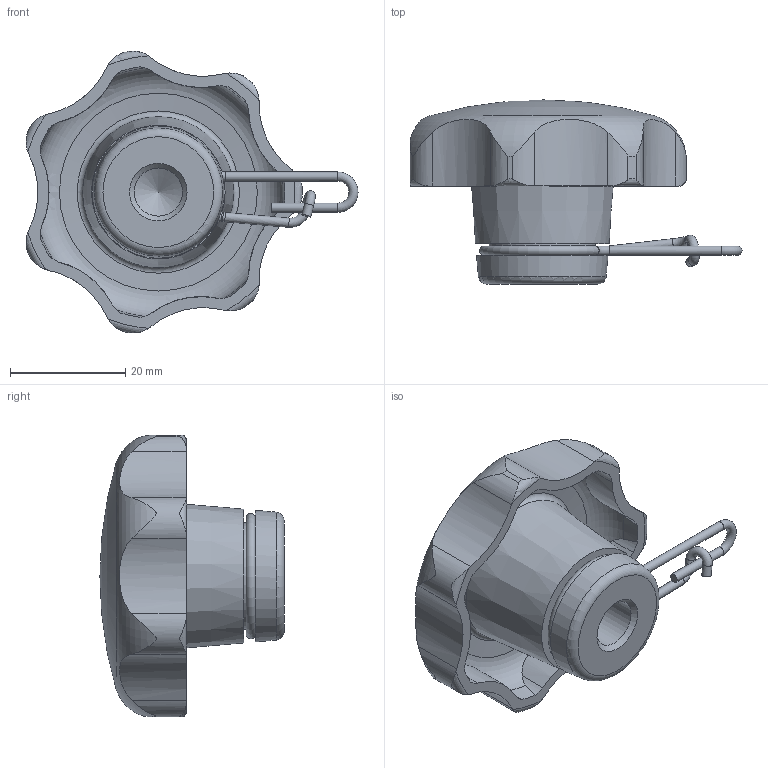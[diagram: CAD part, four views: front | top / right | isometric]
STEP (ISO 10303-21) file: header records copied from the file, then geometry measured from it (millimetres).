
FILE_DESCRIPTION( ( 'STEP AP203' ), '1' );
FILE_NAME( 'C:/Temp/Ganter_Step_05_03_2020/data/2_2/gn_6336_13/gn_6336_13_1/Star knob GN 6336.13-50-M10-A.stp', '2020-03-05T12:10:37', ( 'License CC BY-ND 4.0' ), ( 'CADENAS' ), ' ', 'PARTsolutions', ' ' );
FILE_SCHEMA( ( 'CONFIG_CONTROL_DESIGN' ) );
Length unit declared in the file: millimetre
Products named in the file (1): _Star knob GN 6336.13-50-M10-A
Bounding box: 57.7 x 32 x 48.99 mm (x, y, z)
Volume: 21433 mm3; surface area: 8876.9 mm2
Topology: 1 solids, 1 shells, 93 faces, 251 edges, 162 vertices
Faces by surface type: cylinder 53, torus 18, cone 12, plane 9, sphere 1
Full cylindrical faces by diameter (mm): 1.6 x6, 8.376 x1, 18.5 x1
Entity records: 3568 total; most frequent: CARTESIAN_POINT 1366, DIRECTION 444, ORIENTED_EDGE 438, EDGE_CURVE 219, AXIS2_PLACEMENT_3D 200, VERTEX_POINT 158, EDGE_LOOP 119, FACE_OUTER_BOUND 111
